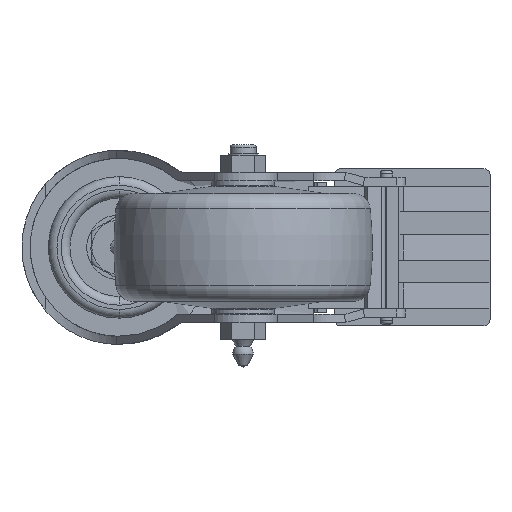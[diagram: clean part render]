
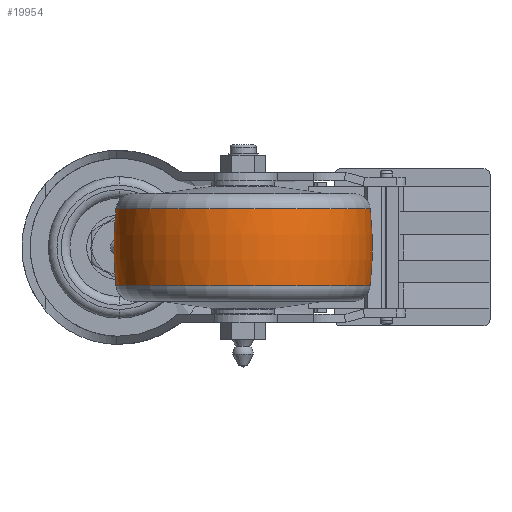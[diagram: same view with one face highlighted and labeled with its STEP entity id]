
A CAD part, front view. The second image highlights one B-rep face of the part: STEP entity #19954.
In plain terms, the highlighted toroidal (fillet/blend) face has major radius 68.269 mm and minor radius 106.369 mm.
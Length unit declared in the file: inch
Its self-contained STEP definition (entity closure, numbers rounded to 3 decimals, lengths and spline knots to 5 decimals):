
#1969 = AXIS2_PLACEMENT_3D ( 'NONE', #18894, #25988, #19965 ) ;
#2741 = CARTESIAN_POINT ( 'NONE',  ( 2.91159, -4.10199, 0.44632 ) ) ;
#3297 = DIRECTION ( 'NONE',  ( -0.053, 0.999, 0. ) ) ;
#5371 = EDGE_CURVE ( 'NONE', #5442, #9707, #8530, .T. ) ;
#5442 = VERTEX_POINT ( 'NONE', #2741 ) ;
#6837 = DIRECTION ( 'NONE',  ( 0.053, -0.999, 0. ) ) ;
#7246 = AXIS2_PLACEMENT_3D ( 'NONE', #9597, #6837, #21610 ) ;
#7705 = EDGE_CURVE ( 'NONE', #19163, #19971, #36669, .T. ) ;
#8530 = CIRCLE ( 'NONE', #19156, 1.47615 ) ;
#9597 = CARTESIAN_POINT ( 'NONE',  ( -1.2465, -4.32204, 0. ) ) ;
#9707 = VERTEX_POINT ( 'NONE', #23747 ) ;
#10186 = CARTESIAN_POINT ( 'NONE',  ( -0.03659, -4.25801, -0.44632 ) ) ;
#10333 = TOROIDAL_SURFACE ( 'NONE', #1969, -2.68776, 4.18776 ) ;
#10334 = DIRECTION ( 'NONE',  ( 0., 0., 1. ) ) ;
#12253 = ORIENTED_EDGE ( 'NONE', *, *, #38539, .F. ) ;
#15124 = DIRECTION ( 'NONE',  ( -0.999, -0.053, 0. ) ) ;
#16385 = CIRCLE ( 'NONE', #7246, 4.18776 ) ;
#16944 = ORIENTED_EDGE ( 'NONE', *, *, #7705, .T. ) ;
#18894 = CARTESIAN_POINT ( 'NONE',  ( 1.4375, -4.18, 0. ) ) ;
#19156 = AXIS2_PLACEMENT_3D ( 'NONE', #27021, #26888, #29877 ) ;
#19163 = VERTEX_POINT ( 'NONE', #10186 ) ;
#19309 = CARTESIAN_POINT ( 'NONE',  ( 2.91159, -4.10199, -0.44632 ) ) ;
#19954 = ADVANCED_FACE ( 'NONE', ( #31375 ), #10333, .T. ) ;
#19965 = DIRECTION ( 'NONE',  ( 0.999, 0.053, 0. ) ) ;
#19971 = VERTEX_POINT ( 'NONE', #19309 ) ;
#21118 = ORIENTED_EDGE ( 'NONE', *, *, #27965, .T. ) ;
#21610 = DIRECTION ( 'NONE',  ( 0.999, 0.053, 0. ) ) ;
#22608 = DIRECTION ( 'NONE',  ( 0.999, 0.053, 0. ) ) ;
#23747 = CARTESIAN_POINT ( 'NONE',  ( -0.03659, -4.25801, 0.44632 ) ) ;
#25988 = DIRECTION ( 'NONE',  ( 0., 0., 1. ) ) ;
#26394 = AXIS2_PLACEMENT_3D ( 'NONE', #27457, #3297, #15124 ) ;
#26888 = DIRECTION ( 'NONE',  ( 0., 0., -1. ) ) ;
#27021 = CARTESIAN_POINT ( 'NONE',  ( 1.4375, -4.18, 0.44632 ) ) ;
#27457 = CARTESIAN_POINT ( 'NONE',  ( 4.1215, -4.03796, 0. ) ) ;
#27627 = CIRCLE ( 'NONE', #26394, 4.18776 ) ;
#27965 = EDGE_CURVE ( 'NONE', #19971, #5442, #16385, .T. ) ;
#29288 = AXIS2_PLACEMENT_3D ( 'NONE', #37953, #10334, #22608 ) ;
#29877 = DIRECTION ( 'NONE',  ( -0.999, -0.053, 0. ) ) ;
#30231 = EDGE_LOOP ( 'NONE', ( #12253, #16944, #21118, #31560 ) ) ;
#31375 = FACE_OUTER_BOUND ( 'NONE', #30231, .T. ) ;
#31560 = ORIENTED_EDGE ( 'NONE', *, *, #5371, .T. ) ;
#36669 = CIRCLE ( 'NONE', #29288, 1.47615 ) ;
#37953 = CARTESIAN_POINT ( 'NONE',  ( 1.4375, -4.18, -0.44632 ) ) ;
#38539 = EDGE_CURVE ( 'NONE', #19163, #9707, #27627, .T. ) ;
